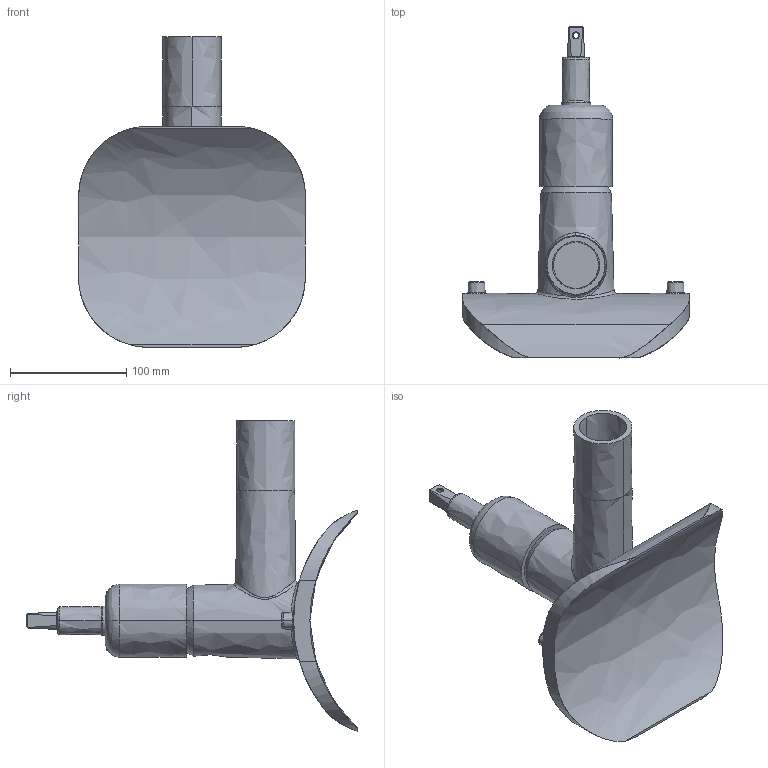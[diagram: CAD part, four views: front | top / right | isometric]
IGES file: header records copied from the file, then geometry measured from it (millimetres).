
Start section:  PTC IGES file: dav-tl_d250_dn50_01.igs
Global section: file name: dav-tl_d250_dn50_01.igs; native system: Pro/ENGINEER by Parametric Technology Corporation; preprocessor: 2011490; author: mtunjic; organization: Unknown; date: 20130909.102357; units: millimetre
Bounding box: 195 x 285.31 x 267 mm (x, y, z)
Surface area: 157275.7 mm2 (no closed solid volume)
Topology: 0 solids, 0 shells, 215 faces, 1084 edges, 1082 vertices
Faces by surface type: bspline 215
